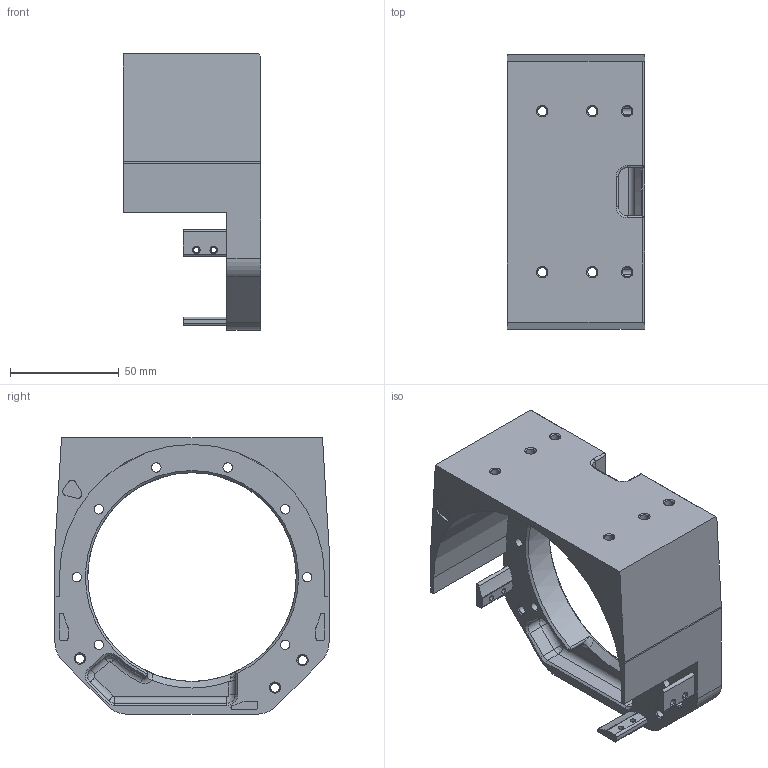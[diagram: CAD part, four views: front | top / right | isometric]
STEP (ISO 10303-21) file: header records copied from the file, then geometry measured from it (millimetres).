
FILE_DESCRIPTION((''),'2;1');
FILE_NAME('KD-D-101R_R_HIP_STATIC_1','2025-07-12T17:02:07',('Administrator'),(''),'CREO PARAMETRIC BY PTC INC, 2022073','CREO PARAMETRIC BY PTC INC, 2022073','');
FILE_SCHEMA(('CONFIG_CONTROL_DESIGN'));
Length unit declared in the file: millimetre
Products named in the file (1): KD-D-101R_R_HIP_STATIC_1
Bounding box: 63 x 126 x 127 mm (x, y, z)
Volume: 177157.9 mm3; surface area: 61117.5 mm2
Topology: 1 solids, 1 shells, 346 faces, 948 edges, 595 vertices
Faces by surface type: cylinder 174, plane 73, cone 65, torus 15, sphere 10, bspline 9
Entity records: 11555 total; most frequent: CARTESIAN_POINT 2409, DIRECTION 2066, ORIENTED_EDGE 1862, EDGE_CURVE 931, AXIS2_PLACEMENT_3D 838, VERTEX_POINT 595, CIRCLE 501, EDGE_LOOP 402
